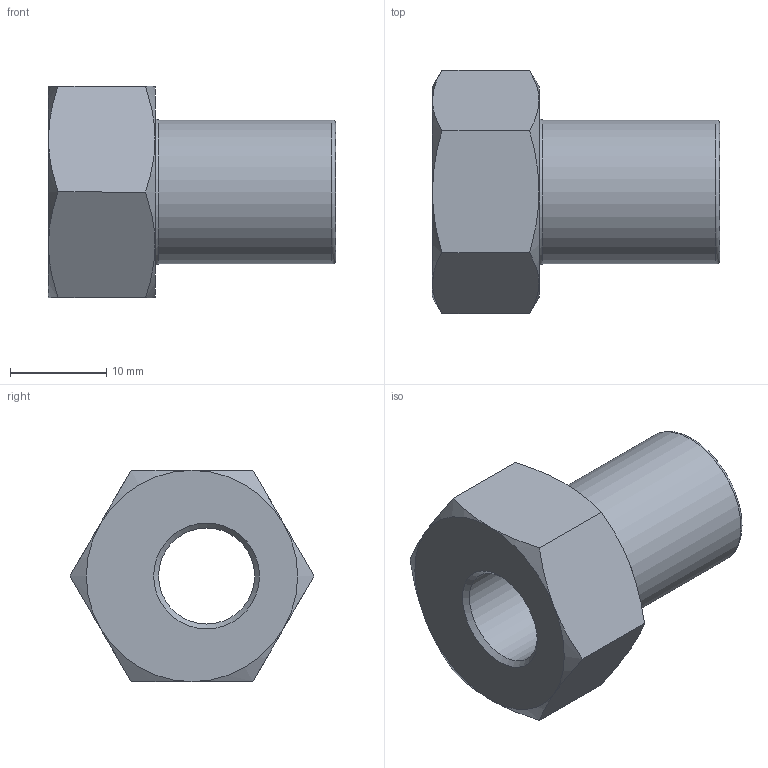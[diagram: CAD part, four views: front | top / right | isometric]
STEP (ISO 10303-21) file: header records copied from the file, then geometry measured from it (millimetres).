
FILE_DESCRIPTION( ( 'STEP AP214' ), '1' );
FILE_NAME( 'p:/temp/worker_32/temp/app_53_02019012316270753854565192d056f_000000_00_00_000000/format_0/MBX4SS.stp', '2019-01-23T15:27:08', ( '' ), ( '' ), ' ', 'PARTsolutions', ' ' );
FILE_SCHEMA( ( 'AUTOMOTIVE_DESIGN { 1 0 10303 214 1 1 1 1 }' ) );
Length unit declared in the file: inch
Products named in the file (1): _MBX4SS
Bounding box: 29.9 x 25.4 x 22 mm (x, y, z)
Volume: 5590.8 mm3; surface area: 3278.6 mm2
Topology: 1 solids, 1 shells, 27 faces, 56 edges, 32 vertices
Faces by surface type: cone 14, plane 9, torus 2, cylinder 2
Full cylindrical faces by diameter (mm): 10 x1, 14.99 x1
Entity records: 1004 total; most frequent: CARTESIAN_POINT 254, DIRECTION 102, ORIENTED_EDGE 100, EDGE_CURVE 50, AXIS2_PLACEMENT_3D 48, EDGE_LOOP 36, VERTEX_POINT 32, FACE_OUTER_BOUND 31
